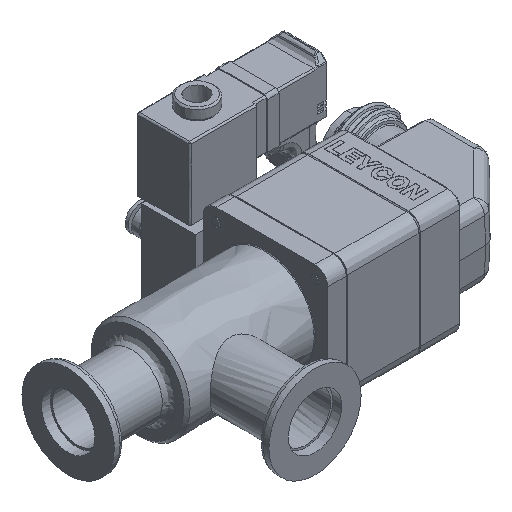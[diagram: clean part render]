
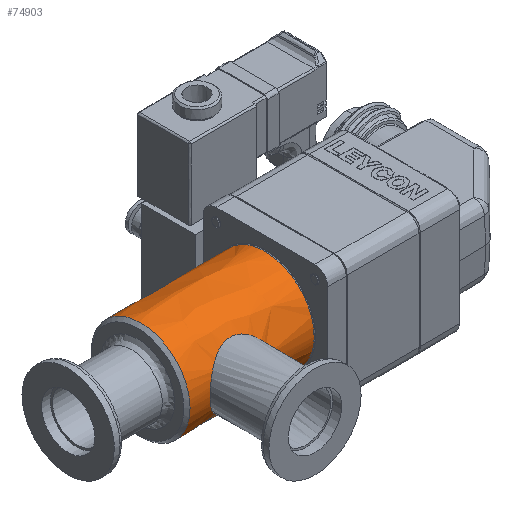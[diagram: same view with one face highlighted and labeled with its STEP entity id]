
A CAD part, isometric view. The second image highlights one B-rep face of the part: STEP entity #74903.
In plain terms, the highlighted free-form (B-spline) face has degree [2, 1] with [7, 2] control points.
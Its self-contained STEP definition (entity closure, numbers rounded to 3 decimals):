
#73440=CARTESIAN_POINT('V34',(23.5,16.,
   0.0));
#73441=VERTEX_POINT('V34',#73440);
#73449=CARTESIAN_POINT('E59',(23.5,16.,
   0.));
#73450=CARTESIAN_POINT('E59',(23.5,16.,
   27.713));
#73451=CARTESIAN_POINT('E59',(23.5,-8.,
   13.856));
#73452=CARTESIAN_POINT('E59',(23.5,-32.0,0.)
   );
#73453=CARTESIAN_POINT('E59',(23.5,-8.,
   -13.856));
#73454=CARTESIAN_POINT('E59',(23.5,16.,
   -27.713));
#73455=CARTESIAN_POINT('E59',(23.5,16.,
   0.));
#73463=(BOUNDED_CURVE()B_SPLINE_CURVE(2,(#73449,#73450,#73451,
   #73452,#73453,#73454,#73455),.CIRCULAR_ARC.,.T.,.U.)
   B_SPLINE_CURVE_WITH_KNOTS((3,2,2,3),(2.0,24.214,
   46.429,68.643),.UNSPECIFIED.)CURVE()
   GEOMETRIC_REPRESENTATION_ITEM()RATIONAL_B_SPLINE_CURVE((1.0,
   0.5,1.0,0.5,1.0,0.5,1.0)
   )REPRESENTATION_ITEM('E59'));
#73464=EDGE_CURVE('E59',#73441,#73441,#73463,.T.);
#73511=CARTESIAN_POINT('V7',(63.7,16.,
   0.0));
#73512=VERTEX_POINT('V7',#73511);
#73536=CARTESIAN_POINT('E10',(63.7,16.,
   0.0));
#73537=CARTESIAN_POINT('E10',(63.7,16.,
   -27.713));
#73538=CARTESIAN_POINT('E10',(63.7,-8.,
   -13.856));
#73539=CARTESIAN_POINT('E10',(63.7,-32.,
   0.));
#73540=CARTESIAN_POINT('E10',(63.7,-8.,
   13.856));
#73541=CARTESIAN_POINT('E10',(63.7,16.,
   27.713));
#73542=CARTESIAN_POINT('E10',(63.7,16.,
   0.0));
#73550=(BOUNDED_CURVE()B_SPLINE_CURVE(2,(#73536,#73537,#73538,
   #73539,#73540,#73541,#73542),.CIRCULAR_ARC.,.T.,.U.)
   B_SPLINE_CURVE_WITH_KNOTS((3,2,2,3),(0.0,197.184,
   394.368,591.552),.UNSPECIFIED.)CURVE()
   GEOMETRIC_REPRESENTATION_ITEM()RATIONAL_B_SPLINE_CURVE((1.0,
   0.5,1.0,0.5,1.0,0.5,1.0)
   )REPRESENTATION_ITEM('E10'));
#73551=EDGE_CURVE('E10',#73512,#73512,#73550,.T.);
#74812=CARTESIAN_POINT('F26',(22.5,16.,
   0.0));
#74813=CARTESIAN_POINT('F26',(22.5,16.,
   27.713));
#74814=CARTESIAN_POINT('F26',(22.5,-8.,
   13.856));
#74815=CARTESIAN_POINT('F26',(22.5,-32.,
   0.));
#74816=CARTESIAN_POINT('F26',(22.5,-8.,
   -13.856));
#74817=CARTESIAN_POINT('F26',(22.5,16.,
   -27.713));
#74818=CARTESIAN_POINT('F26',(22.5,16.,
   0.0));
#74819=CARTESIAN_POINT('F26',(63.7,16.,
   0.0));
#74820=CARTESIAN_POINT('F26',(63.7,16.,
   27.713));
#74821=CARTESIAN_POINT('F26',(63.7,-8.,
   13.856));
#74822=CARTESIAN_POINT('F26',(63.7,-32.,
   0.));
#74823=CARTESIAN_POINT('F26',(63.7,-8.,
   -13.856));
#74824=CARTESIAN_POINT('F26',(63.7,16.,
   -27.713));
#74825=CARTESIAN_POINT('F26',(63.7,16.,
   0.0));
#74833=(BOUNDED_SURFACE()B_SPLINE_SURFACE(2,1,((#74812,#74819),(
   #74813,#74820),(#74814,#74821),(#74815,#74822),(#74816,
   #74823),(#74817,#74824),(#74818,#74825)),.CYLINDRICAL_SURF.,
   .T.,.F.,.U.)B_SPLINE_SURFACE_WITH_KNOTS((3,2,2,3),(2,2),(0.0,
   1.345,2.691,4.036),(0.0,1.0),
   .UNSPECIFIED.)GEOMETRIC_REPRESENTATION_ITEM()
   RATIONAL_B_SPLINE_SURFACE(((1.0,1.0),(0.5,
   0.5),(1.0,1.0),(0.5,
   0.5),(1.0,1.0),(0.5,
   0.5),(1.0,1.0)))REPRESENTATION_ITEM('F26')SURFACE(
   ));
#74834=ORIENTED_EDGE('E59',*,*,#73464,.F.);
#74835=CARTESIAN_POINT('V29',(32.0,16.,0.0));
#74836=VERTEX_POINT('V29',#74835);
#74837=CARTESIAN_POINT('E47',(32.0,16.,0.0));
#74838=CARTESIAN_POINT('E47',(23.5,16.,
   0.0));
#74839=B_SPLINE_CURVE_WITH_KNOTS('E47',1,(#74837,#74838),
   .POLYLINE_FORM.,.F.,.U.,(2,2),(0.769,
   0.976),.UNSPECIFIED.);
#74840=EDGE_CURVE('E47',#74836,#73441,#74839,.T.);
#74841=ORIENTED_EDGE('E47',*,*,#74840,.F.);
#74842=CARTESIAN_POINT('V28',(40.,13.856,
   8.0));
#74843=VERTEX_POINT('V28',#74842);
#74844=CARTESIAN_POINT('E46',(40.,13.856,
   8.0));
#74845=CARTESIAN_POINT('E46',(39.497,13.856,
   8.0));
#74846=CARTESIAN_POINT('E46',(38.997,13.884,
   7.953));
#74847=CARTESIAN_POINT('E46',(37.123,14.085,
   7.596));
#74848=CARTESIAN_POINT('E46',(35.898,14.421,
   6.987));
#74849=CARTESIAN_POINT('E46',(33.831,15.134,
   5.282));
#74850=CARTESIAN_POINT('E46',(32.919,15.554,
   4.05));
#74851=CARTESIAN_POINT('E46',(32.141,15.928,
   1.724));
#74852=CARTESIAN_POINT('E46',(32.0,16.,
   0.868));
#74853=CARTESIAN_POINT('E46',(32.0,16.,0.0));
#74854=B_SPLINE_CURVE_WITH_KNOTS('E46',3,(#74844,#74845,#74846,
   #74847,#74848,#74849,#74850,#74851,#74852,#74853),.UNSPECIFIED.,
   .F.,.U.,(4,2,2,2,4),(0.0,0.117,0.446,
   0.806,1.0),.UNSPECIFIED.);
#74855=EDGE_CURVE('E46',#74843,#74836,#74854,.T.);
#74856=ORIENTED_EDGE('E46',*,*,#74855,.F.);
#74857=CARTESIAN_POINT('V30',(48.,16.,
   0.0));
#74858=VERTEX_POINT('V30',#74857);
#74859=CARTESIAN_POINT('E50',(48.,16.,
   0.0));
#74860=CARTESIAN_POINT('E50',(48.,16.,
   0.757));
#74861=CARTESIAN_POINT('E50',(47.893,15.946,
   1.506));
#74862=CARTESIAN_POINT('E50',(47.445,15.728,
   3.051));
#74863=CARTESIAN_POINT('E50',(47.088,15.559,
   3.788));
#74864=CARTESIAN_POINT('E50',(45.594,14.912,
   6.036));
#74865=CARTESIAN_POINT('E50',(43.972,14.294,
   7.212));
#74866=CARTESIAN_POINT('E50',(41.414,13.912,
   7.906));
#74867=CARTESIAN_POINT('E50',(40.711,13.856,
   8.0));
#74868=CARTESIAN_POINT('E50',(40.,13.856,
   8.0));
#74869=B_SPLINE_CURVE_WITH_KNOTS('E50',3,(#74859,#74860,#74861,
   #74862,#74863,#74864,#74865,#74866,#74867,#74868),.UNSPECIFIED.,
   .F.,.U.,(4,2,2,2,4),(0.0,0.165,0.354,
   0.828,1.0),.UNSPECIFIED.);
#74870=EDGE_CURVE('E50',#74858,#74843,#74869,.T.);
#74871=ORIENTED_EDGE('E50',*,*,#74870,.F.);
#74872=CARTESIAN_POINT('E49',(63.7,16.,
   0.0));
#74873=CARTESIAN_POINT('E49',(48.,16.,
   0.0));
#74874=B_SPLINE_CURVE_WITH_KNOTS('E49',1,(#74872,#74873),
   .POLYLINE_FORM.,.F.,.U.,(2,2),(0.0,0.381),
   .UNSPECIFIED.);
#74875=EDGE_CURVE('E49',#73512,#74858,#74874,.T.);
#74876=ORIENTED_EDGE('E49',*,*,#74875,.F.);
#74877=ORIENTED_EDGE('F5',*,*,#73551,.F.);
#74878=ORIENTED_EDGE('E49',*,*,#74875,.T.);
#74879=CARTESIAN_POINT('E48',(32.0,16.,0.0));
#74880=CARTESIAN_POINT('E48',(32.0,16.,
   -0.453));
#74881=CARTESIAN_POINT('E48',(32.038,15.981,
   -0.903));
#74882=CARTESIAN_POINT('E48',(32.302,15.85,
   -2.448));
#74883=CARTESIAN_POINT('E48',(32.703,15.654,
   -3.41));
#74884=CARTESIAN_POINT('E48',(34.205,14.992,
   -5.839));
#74885=CARTESIAN_POINT('E48',(35.76,14.382,
   -7.042));
#74886=CARTESIAN_POINT('E48',(38.308,13.94,
   -7.859));
#74887=CARTESIAN_POINT('E48',(39.092,13.863,
   -7.988));
#74888=CARTESIAN_POINT('E48',(40.68,13.851,
   -8.01));
#74889=CARTESIAN_POINT('E48',(41.459,13.913,
   -7.905));
#74890=CARTESIAN_POINT('E48',(42.871,14.136,
   -7.499));
#74891=CARTESIAN_POINT('E48',(43.488,14.278,
   -7.229));
#74892=CARTESIAN_POINT('E48',(45.313,14.791,
   -6.158));
#74893=CARTESIAN_POINT('E48',(46.404,15.251,
   -5.048));
#74894=CARTESIAN_POINT('E48',(47.589,15.793,
   -2.729));
#74895=CARTESIAN_POINT('E48',(48.,16.,
   -1.484));
#74896=CARTESIAN_POINT('E48',(48.,16.,
   0.0));
#74897=B_SPLINE_CURVE_WITH_KNOTS('E48',3,(#74879,#74880,#74881,
   #74882,#74883,#74884,#74885,#74886,#74887,#74888,#74889,#74890,
   #74891,#74892,#74893,#74894,#74895,#74896),.UNSPECIFIED.,.F.,.U.,
   (4,2,2,2,2,2,2,2,4),(0.0,0.047,0.162,
   0.399,0.497,0.595,
   0.681,0.874,1.0),.UNSPECIFIED.);
#74898=EDGE_CURVE('E48',#74836,#74858,#74897,.T.);
#74899=ORIENTED_EDGE('E48',*,*,#74898,.F.);
#74900=ORIENTED_EDGE('E47',*,*,#74840,.T.);
#74901=EDGE_LOOP('F26',(#74834,#74841,#74856,#74871,#74876,#74877,
   #74878,#74899,#74900));
#74902=FACE_OUTER_BOUND('F26',#74901,.F.);
#74903=ADVANCED_FACE('F26',(#74902),#74833,.T.);
